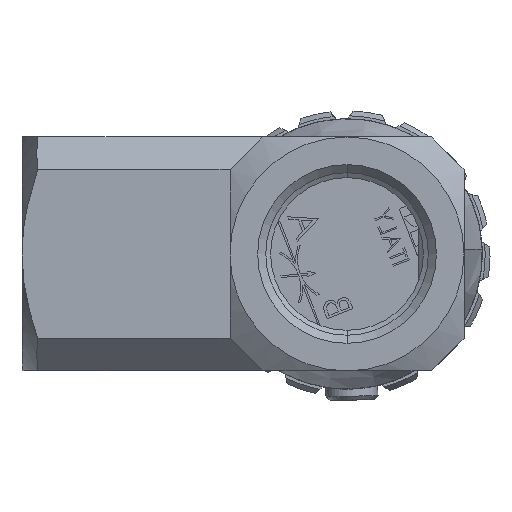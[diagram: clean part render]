
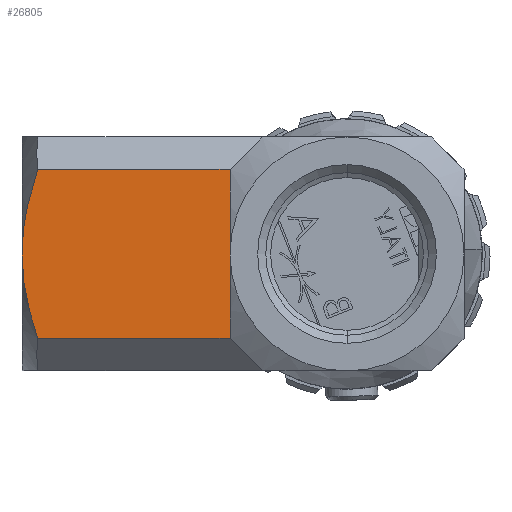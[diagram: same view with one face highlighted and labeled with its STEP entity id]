
A CAD part, front view. The second image highlights one B-rep face of the part: STEP entity #26805.
In plain terms, the highlighted planar face has unit normal (0, -1, 0).
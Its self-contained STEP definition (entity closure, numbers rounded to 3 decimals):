
#329 = CARTESIAN_POINT ( 'NONE',  ( -9., -9., -9. ) ) ;
#460 = DIRECTION ( 'NONE',  ( 0., 0., -1. ) ) ;
#769 = ORIENTED_EDGE ( 'NONE', *, *, #3677, .T. ) ;
#772 = EDGE_CURVE ( 'NONE', #23683, #13581, #20160, .T. ) ;
#3138 = CARTESIAN_POINT ( 'NONE',  ( -24.448, -9., -4.375 ) ) ;
#3639 = VECTOR ( 'NONE', #7584, 1000. ) ;
#3677 = EDGE_CURVE ( 'NONE', #21657, #13793, #12323, .T. ) ;
#3789 = CARTESIAN_POINT ( 'NONE',  ( -9., -9., -6.5 ) ) ;
#4804 = EDGE_CURVE ( 'NONE', #13793, #23683, #18877, .T. ) ;
#5492 = CARTESIAN_POINT ( 'NONE',  ( -23.787, -9., -6.5 ) ) ;
#6731 = EDGE_LOOP ( 'NONE', ( #769, #14133, #27015, #13730, #28488 ) ) ;
#7584 = DIRECTION ( 'NONE',  ( 0., 0., -1. ) ) ;
#8295 = FACE_OUTER_BOUND ( 'NONE', #6731, .T. ) ;
#9692 = VECTOR ( 'NONE', #25336, 1000. ) ;
#9819 = CARTESIAN_POINT ( 'NONE',  ( -9., -9., 6.5 ) ) ;
#10688 = CARTESIAN_POINT ( 'NONE',  ( -24.446, -9., 4.384 ) ) ;
#11618 = VERTEX_POINT ( 'NONE', #3789 ) ;
#12323 = LINE ( 'NONE', #15517, #18537 ) ;
#12326 = CARTESIAN_POINT ( 'NONE',  ( -25., -9., 0. ) ) ;
#13043 = CARTESIAN_POINT ( 'NONE',  ( -24.854, -9., 2.217 ) ) ;
#13581 = VERTEX_POINT ( 'NONE', #22926 ) ;
#13730 = ORIENTED_EDGE ( 'NONE', *, *, #19309, .T. ) ;
#13793 = VERTEX_POINT ( 'NONE', #23506 ) ;
#14133 = ORIENTED_EDGE ( 'NONE', *, *, #4804, .T. ) ;
#14400 = DIRECTION ( 'NONE',  ( 0., -1., 0. ) ) ;
#14759 = CARTESIAN_POINT ( 'NONE',  ( -25., -9., -1.111 ) ) ;
#15517 = CARTESIAN_POINT ( 'NONE',  ( -25., -9., 6.5 ) ) ;
#16349 = EDGE_CURVE ( 'NONE', #21657, #11618, #22981, .T. ) ;
#17096 = CARTESIAN_POINT ( 'NONE',  ( -25., -9., 0. ) ) ;
#17161 = AXIS2_PLACEMENT_3D ( 'NONE', #28393, #14400, #460 ) ;
#18537 = VECTOR ( 'NONE', #20207, 1000. ) ;
#18877 = B_SPLINE_CURVE_WITH_KNOTS ( 'NONE', 3,
 ( #22178, #22287, #10688, #26974, #13043, #29780, #26308, #12326 ),
 .UNSPECIFIED., .F., .F.,
 ( 4, 2, 2, 4 ),
 ( 0.024, 0.027, 0.029, 0.031 ),
 .UNSPECIFIED. ) ;
#19309 = EDGE_CURVE ( 'NONE', #13581, #11618, #22053, .T. ) ;
#19465 = CARTESIAN_POINT ( 'NONE',  ( -24.141, -9., -5.451 ) ) ;
#20160 = B_SPLINE_CURVE_WITH_KNOTS ( 'NONE', 3,
 ( #17096, #14759, #28566, #3138, #19465, #5492 ),
 .UNSPECIFIED., .F., .F.,
 ( 4, 2, 4 ),
 ( 0.031, 0.034, 0.037 ),
 .UNSPECIFIED. ) ;
#20207 = DIRECTION ( 'NONE',  ( -1., 0., 0. ) ) ;
#21657 = VERTEX_POINT ( 'NONE', #9819 ) ;
#21821 = CARTESIAN_POINT ( 'NONE',  ( -25., -9., 0. ) ) ;
#22053 = LINE ( 'NONE', #30005, #9692 ) ;
#22178 = CARTESIAN_POINT ( 'NONE',  ( -23.787, -9., 6.5 ) ) ;
#22287 = CARTESIAN_POINT ( 'NONE',  ( -24.142, -9., 5.448 ) ) ;
#22926 = CARTESIAN_POINT ( 'NONE',  ( -23.787, -9., -6.5 ) ) ;
#22981 = LINE ( 'NONE', #329, #3639 ) ;
#23506 = CARTESIAN_POINT ( 'NONE',  ( -23.787, -9., 6.5 ) ) ;
#23683 = VERTEX_POINT ( 'NONE', #21821 ) ;
#25336 = DIRECTION ( 'NONE',  ( 1., 0., 0. ) ) ;
#25967 = PLANE ( 'NONE',  #17161 ) ;
#26308 = CARTESIAN_POINT ( 'NONE',  ( -25., -9., 0.555 ) ) ;
#26805 = ADVANCED_FACE ( 'NONE', ( #8295 ), #25967, .T. ) ;
#26974 = CARTESIAN_POINT ( 'NONE',  ( -24.769, -9., 2.762 ) ) ;
#27015 = ORIENTED_EDGE ( 'NONE', *, *, #772, .T. ) ;
#28393 = CARTESIAN_POINT ( 'NONE',  ( -25., -9., 9. ) ) ;
#28488 = ORIENTED_EDGE ( 'NONE', *, *, #16349, .F. ) ;
#28566 = CARTESIAN_POINT ( 'NONE',  ( -24.878, -9., -2.207 ) ) ;
#29780 = CARTESIAN_POINT ( 'NONE',  ( -24.97, -9., 1.115 ) ) ;
#30005 = CARTESIAN_POINT ( 'NONE',  ( -9., -9., -6.5 ) ) ;
